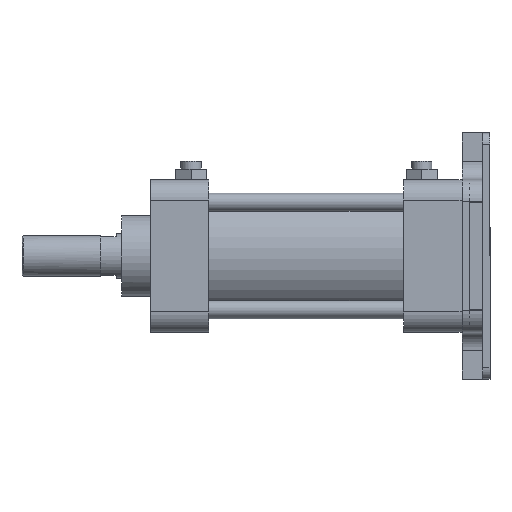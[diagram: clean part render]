
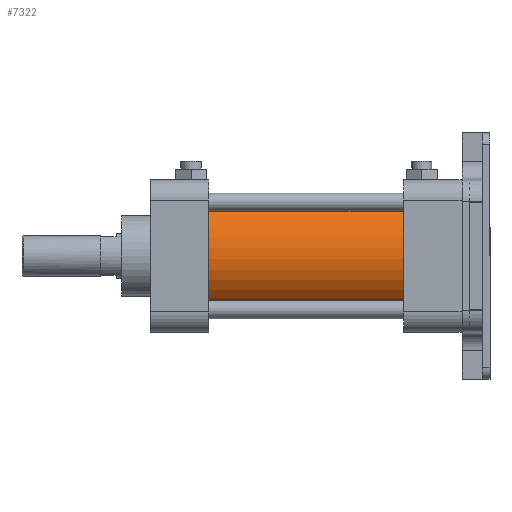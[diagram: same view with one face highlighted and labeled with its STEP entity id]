
A CAD part, front view. The second image highlights one B-rep face of the part: STEP entity #7322.
In plain terms, the highlighted cylindrical face has radius 28 mm (diameter 56 mm), a partial arc.
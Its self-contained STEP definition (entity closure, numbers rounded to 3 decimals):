
#133 = CYLINDRICAL_SURFACE ( 'NONE', #8417, 28. ) ;
#206 = VERTEX_POINT ( 'NONE', #5087 ) ;
#775 = CARTESIAN_POINT ( 'NONE',  ( -29.1, 0., 0. ) ) ;
#936 = EDGE_CURVE ( 'NONE', #1338, #4323, #10051, .T. ) ;
#938 = FACE_OUTER_BOUND ( 'NONE', #5372, .T. ) ;
#1127 = LINE ( 'NONE', #9271, #8920 ) ;
#1338 = VERTEX_POINT ( 'NONE', #1840 ) ;
#1840 = CARTESIAN_POINT ( 'NONE',  ( 43.5, 0., -28. ) ) ;
#2404 = CIRCLE ( 'NONE', #9159, 28. ) ;
#2462 = AXIS2_PLACEMENT_3D ( 'NONE', #3460, #5010, #10225 ) ;
#2712 = ORIENTED_EDGE ( 'NONE', *, *, #6524, .F. ) ;
#3460 = CARTESIAN_POINT ( 'NONE',  ( -43.5, 0., 0. ) ) ;
#3564 = CIRCLE ( 'NONE', #2462, 28. ) ;
#3856 = DIRECTION ( 'NONE',  ( -1., 0., 0. ) ) ;
#4164 = ORIENTED_EDGE ( 'NONE', *, *, #5765, .T. ) ;
#4323 = VERTEX_POINT ( 'NONE', #4770 ) ;
#4464 = EDGE_CURVE ( 'NONE', #1338, #206, #2404, .T. ) ;
#4770 = CARTESIAN_POINT ( 'NONE',  ( -43.5, 0., -28. ) ) ;
#4828 = CARTESIAN_POINT ( 'NONE',  ( 43.5, 0., 0. ) ) ;
#5010 = DIRECTION ( 'NONE',  ( -1., 0., 0. ) ) ;
#5087 = CARTESIAN_POINT ( 'NONE',  ( 43.5, 0., 28. ) ) ;
#5372 = EDGE_LOOP ( 'NONE', ( #5669, #6849, #4164, #2712 ) ) ;
#5551 = CARTESIAN_POINT ( 'NONE',  ( -43.5, 0., 28. ) ) ;
#5669 = ORIENTED_EDGE ( 'NONE', *, *, #936, .F. ) ;
#5765 = EDGE_CURVE ( 'NONE', #206, #8375, #1127, .T. ) ;
#6524 = EDGE_CURVE ( 'NONE', #4323, #8375, #3564, .T. ) ;
#6714 = DIRECTION ( 'NONE',  ( -1., 0., 0. ) ) ;
#6849 = ORIENTED_EDGE ( 'NONE', *, *, #4464, .T. ) ;
#7145 = DIRECTION ( 'NONE',  ( -1., 0., 0. ) ) ;
#7322 = ADVANCED_FACE ( 'NONE', ( #938 ), #133, .T. ) ;
#7507 = DIRECTION ( 'NONE',  ( -1., 0., 0. ) ) ;
#8014 = CARTESIAN_POINT ( 'NONE',  ( -29.1, 0., -28. ) ) ;
#8375 = VERTEX_POINT ( 'NONE', #5551 ) ;
#8417 = AXIS2_PLACEMENT_3D ( 'NONE', #775, #6714, #10091 ) ;
#8920 = VECTOR ( 'NONE', #3856, 1000. ) ;
#9030 = DIRECTION ( 'NONE',  ( 0., 0., 1. ) ) ;
#9159 = AXIS2_PLACEMENT_3D ( 'NONE', #4828, #7145, #9030 ) ;
#9216 = VECTOR ( 'NONE', #7507, 1000. ) ;
#9271 = CARTESIAN_POINT ( 'NONE',  ( -29.1, 0., 28. ) ) ;
#10051 = LINE ( 'NONE', #8014, #9216 ) ;
#10091 = DIRECTION ( 'NONE',  ( 0., 0., 1. ) ) ;
#10225 = DIRECTION ( 'NONE',  ( 0., 0., 1. ) ) ;
